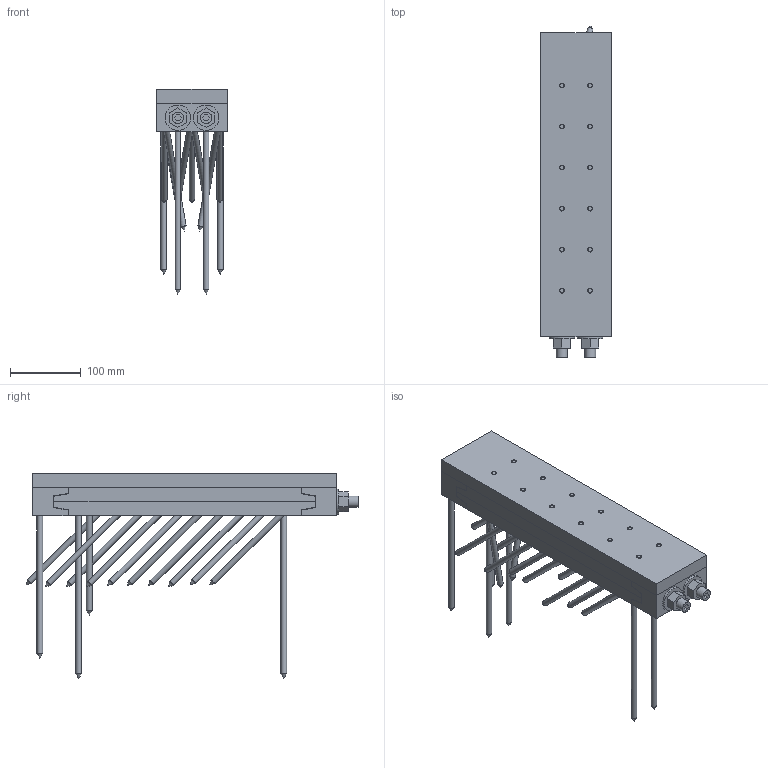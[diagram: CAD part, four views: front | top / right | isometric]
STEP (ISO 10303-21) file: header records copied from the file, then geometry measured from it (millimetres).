
FILE_DESCRIPTION(/* description */ ('Unknown'),/* implementation_level */ '2;1');
FILE_NAME(/* name */ 'MEGANT_430x100x40_Holz-Stahl-Anschluss_Verdeckt',/* time_stamp */ '2022-01-31T16:04:27+01:00',/* author */ ('Unknown'),/* organization */ ('Unknown'),/* preprocessor_version */ 'ST-DEVELOPER v16.7',/* originating_system */ 'Solid Edge',/* authorisation */ 'Unknown');
FILE_SCHEMA (('AUTOMOTIVE_DESIGN {1 0 10303 214 3 1 1}'));
Length unit declared in the file: millimetre
Products named in the file (16): MEGANT_430x100x40_Holz-Stahl-Anschluss_Verdeckt; Verbinderplatte_370x100x20_NT; Verbinderplatte_370x100x20; SK_Schraube_8x240; SK_Schraube_8x160; Verbinderplatte_370x100x20_HT_Stahlanschluss_12xM8x30; Verbinderplatte_370x100x20_Stahlanschluss_12xM8x30; SK_M8x30; Spannbacke_oben_100x50x40; Spannbacke_unten_100x50x40_NT; Spannbacke_unten_100x50x40; Stahlplatte_430x100x20_12xSKM8x25; Gewindestange_M16_L460; Beilagscheibe_M16; Mutter_M16
Assembly tree (48 placements, depth 3):
  MEGANT_430x100x40_Holz-Stahl-Anschluss_Verdeckt
    Verbinderplatte_370x100x20_NT
      Verbinderplatte_370x100x20
      SK_Schraube_8x240  x4
      SK_Schraube_8x160  x17
    Verbinderplatte_370x100x20_HT_Stahlanschluss_12xM8x30
      Verbinderplatte_370x100x20_Stahlanschluss_12xM8x30
      SK_M8x30  x12
    Spannbacke_oben_100x50x40
    Spannbacke_unten_100x50x40_NT
      Spannbacke_unten_100x50x40
      SK_Schraube_8x240  x2
    Stahlplatte_430x100x20_12xSKM8x25
    Gewindestange_M16_L460  x2
      Gewindestange_M16_L460
      Beilagscheibe_M16
      Mutter_M16
Bounding box: 100 x 469.47 x 290 mm (x, y, z)
Volume: 2631280.5 mm3; surface area: 577350 mm2
Topology: 46 solids, 46 shells, 593 faces, 1413 edges, 891 vertices
Faces by surface type: plane 247, cylinder 222, cone 124
Full cylindrical faces by diameter (mm): 6.647 x24, 8 x35, 8.5 x54, 13.835 x2, 14 x2, 15 x65, 16 x14, 17 x16, 36 x2
Entity records: 11813 total; most frequent: DIRECTION 1978, CARTESIAN_POINT 1804, ORIENTED_EDGE 1526, AXIS2_PLACEMENT_3D 767, EDGE_CURVE 763, FACE_BOUND 750, EDGE_LOOP 748, VERTEX_POINT 593
